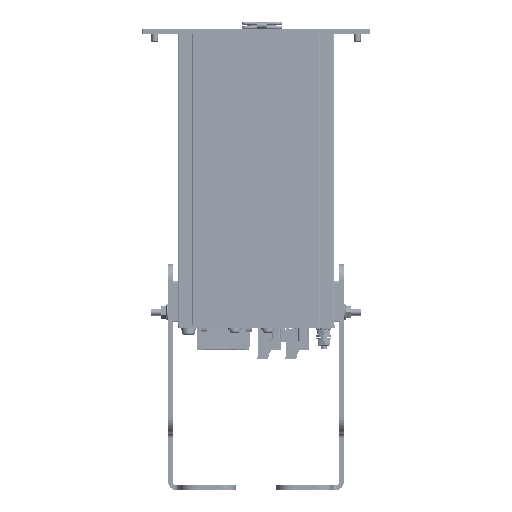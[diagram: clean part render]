
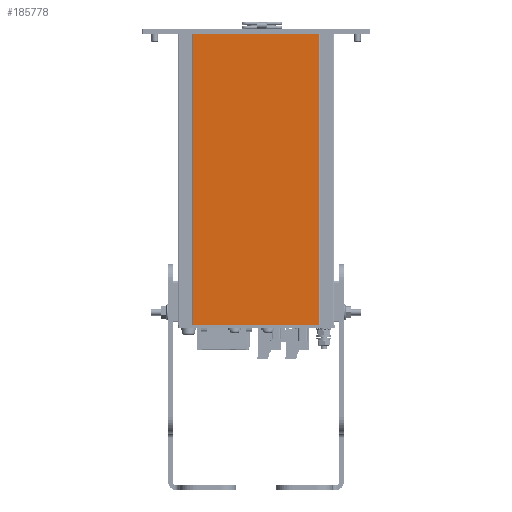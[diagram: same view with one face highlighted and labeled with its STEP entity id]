
A CAD part, front view. The second image highlights one B-rep face of the part: STEP entity #185778.
In plain terms, the highlighted planar face has unit normal (0, -1, 0).
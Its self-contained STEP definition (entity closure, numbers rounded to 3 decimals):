
#3612 = LINE ( 'NONE', #597055, #310393 ) ;
#28587 = CARTESIAN_POINT ( 'NONE',  ( -93.551, -158.02, 282.25 ) ) ;
#30833 = EDGE_LOOP ( 'NONE', ( #252110, #564004, #411640, #135144 ) ) ;
#108091 = CARTESIAN_POINT ( 'NONE',  ( -93.551, -158.02, 282.25 ) ) ;
#121675 = CARTESIAN_POINT ( 'NONE',  ( -15.269, -158.02, 282.25 ) ) ;
#135144 = ORIENTED_EDGE ( 'NONE', *, *, #481920, .T. ) ;
#154280 = EDGE_CURVE ( 'NONE', #184382, #307308, #3612, .T. ) ;
#184382 = VERTEX_POINT ( 'NONE', #512335 ) ;
#185778 = ADVANCED_FACE ( 'NONE', ( #472069 ), #426101, .F. ) ;
#193753 = DIRECTION ( 'NONE',  ( 1., 0., 0. ) ) ;
#206154 = AXIS2_PLACEMENT_3D ( 'NONE', #511678, #475314, #560811 ) ;
#211750 = EDGE_CURVE ( 'NONE', #350227, #307308, #272312, .T. ) ;
#229643 = CARTESIAN_POINT ( 'NONE',  ( -15.269, -158.02, 282.25 ) ) ;
#252110 = ORIENTED_EDGE ( 'NONE', *, *, #154280, .T. ) ;
#263868 = VERTEX_POINT ( 'NONE', #108091 ) ;
#272312 = LINE ( 'NONE', #121675, #628563 ) ;
#307308 = VERTEX_POINT ( 'NONE', #434964 ) ;
#310393 = VECTOR ( 'NONE', #193753, 1000. ) ;
#321609 = DIRECTION ( 'NONE',  ( 0., 0., -1. ) ) ;
#323512 = LINE ( 'NONE', #28587, #484117 ) ;
#327045 = EDGE_CURVE ( 'NONE', #263868, #350227, #406503, .T. ) ;
#350227 = VERTEX_POINT ( 'NONE', #229643 ) ;
#360529 = CARTESIAN_POINT ( 'NONE',  ( -15.269, -158.02, 282.25 ) ) ;
#379225 = DIRECTION ( 'NONE',  ( 0., 0., -1. ) ) ;
#406503 = LINE ( 'NONE', #360529, #618583 ) ;
#411640 = ORIENTED_EDGE ( 'NONE', *, *, #327045, .F. ) ;
#426101 = PLANE ( 'NONE',  #206154 ) ;
#434964 = CARTESIAN_POINT ( 'NONE',  ( -15.269, -158.02, 102.25 ) ) ;
#472069 = FACE_OUTER_BOUND ( 'NONE', #30833, .T. ) ;
#475314 = DIRECTION ( 'NONE',  ( 0., 1., 0. ) ) ;
#481920 = EDGE_CURVE ( 'NONE', #263868, #184382, #323512, .T. ) ;
#484117 = VECTOR ( 'NONE', #379225, 1000. ) ;
#511678 = CARTESIAN_POINT ( 'NONE',  ( -15.269, -158.02, 282.25 ) ) ;
#512335 = CARTESIAN_POINT ( 'NONE',  ( -93.551, -158.02, 102.25 ) ) ;
#554085 = DIRECTION ( 'NONE',  ( 1., 0., 0. ) ) ;
#560811 = DIRECTION ( 'NONE',  ( 0., 0., -1. ) ) ;
#564004 = ORIENTED_EDGE ( 'NONE', *, *, #211750, .F. ) ;
#597055 = CARTESIAN_POINT ( 'NONE',  ( -15.269, -158.02, 102.25 ) ) ;
#618583 = VECTOR ( 'NONE', #554085, 1000. ) ;
#628563 = VECTOR ( 'NONE', #321609, 1000. ) ;
